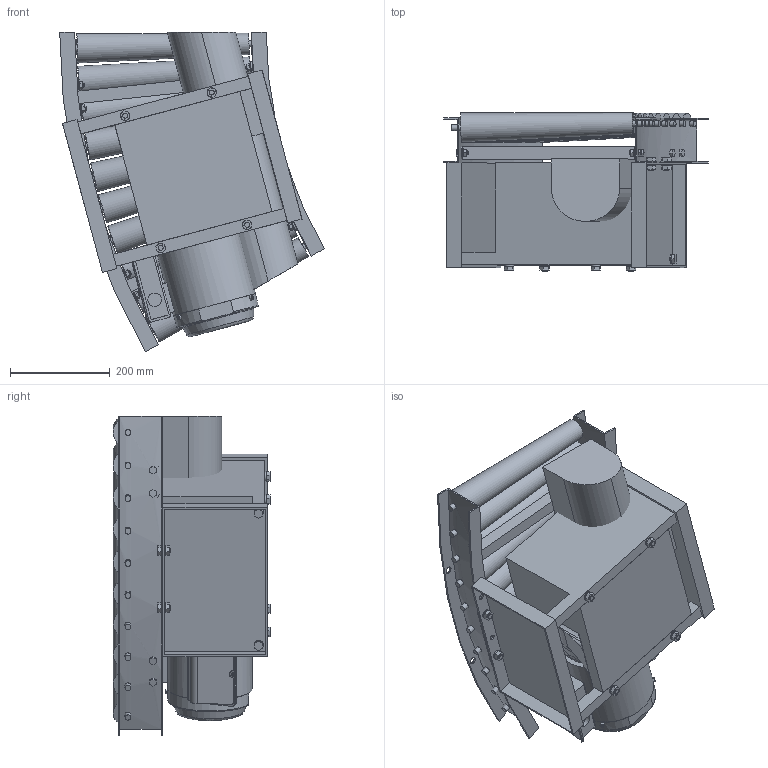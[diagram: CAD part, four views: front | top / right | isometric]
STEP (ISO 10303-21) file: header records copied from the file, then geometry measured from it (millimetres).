
FILE_DESCRIPTION( (''), '2;1');
FILE_NAME ('WEB-MCD-42-355-50-30°-C9.stp','2026-03-19T09:30:24',(''),(''),'spGate 20.6.2 (****-****-****-****)','','');
FILE_SCHEMA (('AUTOMOTIVE_DESIGN'));
Length unit declared in the file: millimetre
Products named in the file (31): WEB-MCD-42-355-50-30_-C9; TEMP_X_T-prt0; TEMP_X_T-prt1; TEMP_X_T-prt2; TEMP_X_T-prt3; TEMP_X_T-prt4; TEMP_X_T-prt5; TEMP_X_T-prt6; TEMP_X_T-prt7; TEMP_X_T-prt8; TEMP_X_T-prt9; TEMP_X_T-prt10; TEMP_X_T-prt11; TEMP_X_T-prt12; TEMP_X_T-prt13; TEMP_X_T-prt14; TEMP_X_T-prt15; TEMP_X_T-prt16; TEMP_X_T-prt17; TEMP_X_T-prt18; TEMP_X_T-prt19; TEMP_X_T-prt20; TEMP_X_T-prt21; TEMP_X_T-prt22; TEMP_X_T-prt23; TEMP_X_T-prt24; TEMP_X_T-prt25; TEMP_X_T-prt26; TEMP_X_T-prt27; TEMP_X_T-prt28; TEMP_X_T-prt29
Assembly tree (30 placements, depth 2):
  WEB-MCD-42-355-50-30_-C9
    TEMP_X_T-prt0
    TEMP_X_T-prt1
    TEMP_X_T-prt2
    TEMP_X_T-prt3
    TEMP_X_T-prt4
    TEMP_X_T-prt5
    TEMP_X_T-prt6
    TEMP_X_T-prt7
    TEMP_X_T-prt8
    TEMP_X_T-prt9
    TEMP_X_T-prt10
    TEMP_X_T-prt11
    TEMP_X_T-prt12
    TEMP_X_T-prt13
    TEMP_X_T-prt14
    TEMP_X_T-prt15
    TEMP_X_T-prt16
    TEMP_X_T-prt17
    TEMP_X_T-prt18
    TEMP_X_T-prt19
    TEMP_X_T-prt20
    TEMP_X_T-prt21
    TEMP_X_T-prt22
    TEMP_X_T-prt23
    TEMP_X_T-prt24
    TEMP_X_T-prt25
    TEMP_X_T-prt26
    TEMP_X_T-prt27
    TEMP_X_T-prt28
    TEMP_X_T-prt29
Bounding box: 531.56 x 317.01 x 642.5 mm (x, y, z)
Volume: 32310578.8 mm3; surface area: 2282039.1 mm2
Topology: 30 solids, 36 shells, 1074 faces, 2666 edges, 1763 vertices
Faces by surface type: plane 802, cylinder 223, bspline 48, sphere 1
Full cylindrical faces by diameter (mm): 6.94 x3, 7 x1, 8 x21, 8.5 x18, 10 x12, 10.5 x8, 12 x24, 12.4 x10, 14 x4, 18 x2, 18.4 x12, 27 x1, 28 x1, 31 x1, 63 x1, 149.6 x1, 153 x1, 170.344 x1
Entity records: 59484 total; most frequent: CARTESIAN_POINT 11461, ORIENTED_EDGE 5332, DIRECTION 5246, COLOUR_RGB 3770, PRESENTATION_STYLE_ASSIGNMENT 3770, STYLED_ITEM 3770, EDGE_CURVE 2666, DRAUGHTING_PRE_DEFINED_CURVE_FONT 2666
